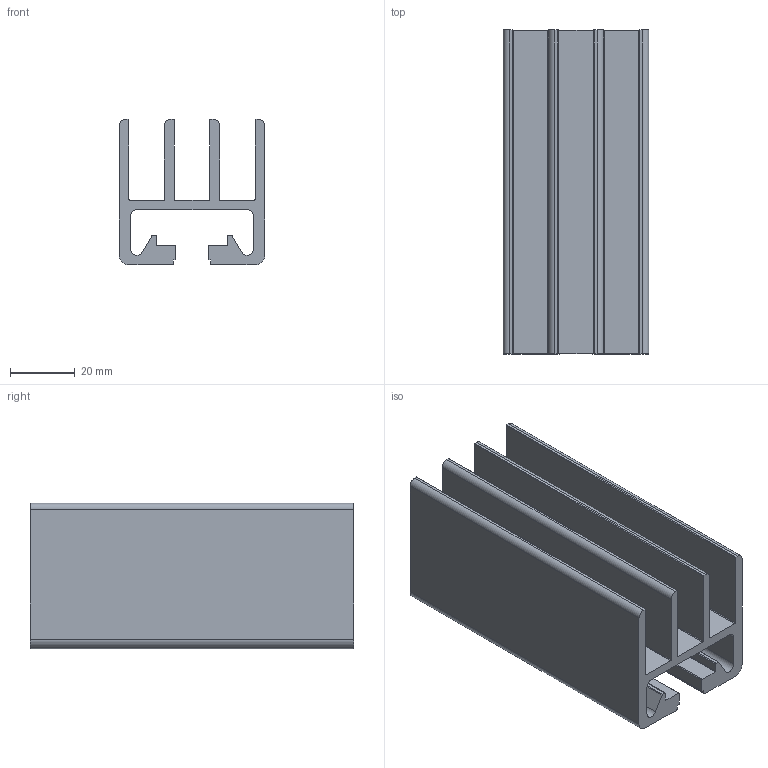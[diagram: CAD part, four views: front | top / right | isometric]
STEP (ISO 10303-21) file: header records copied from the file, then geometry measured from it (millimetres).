
FILE_DESCRIPTION( ( 'Unknown' ), '1' );
FILE_NAME( '//NAS_LAN/private_lan_Vol3/DB/9999-45x45-SD-2015-11-13/45x45-SD.stp', 'Unknown', ( 'Unknown' ), ( 'Unknown' ), 'XStep 1.0', 'Unknown', ' ' );
FILE_SCHEMA( ( 'automotive_design' ) );
Length unit declared in the file: millimetre
Products named in the file (1): 1
Bounding box: 45 x 100 x 45 mm (x, y, z)
Volume: 70539.7 mm3; surface area: 44114.6 mm2
Topology: 1 solids, 1 shells, 68 faces, 198 edges, 132 vertices
Faces by surface type: plane 36, cylinder 32
Entity records: 2826 total; most frequent: DIRECTION 400, CARTESIAN_POINT 399, ORIENTED_EDGE 396, EDGE_CURVE 198, LINE 134, VECTOR 134, AXIS2_PLACEMENT_3D 133, VERTEX_POINT 132
